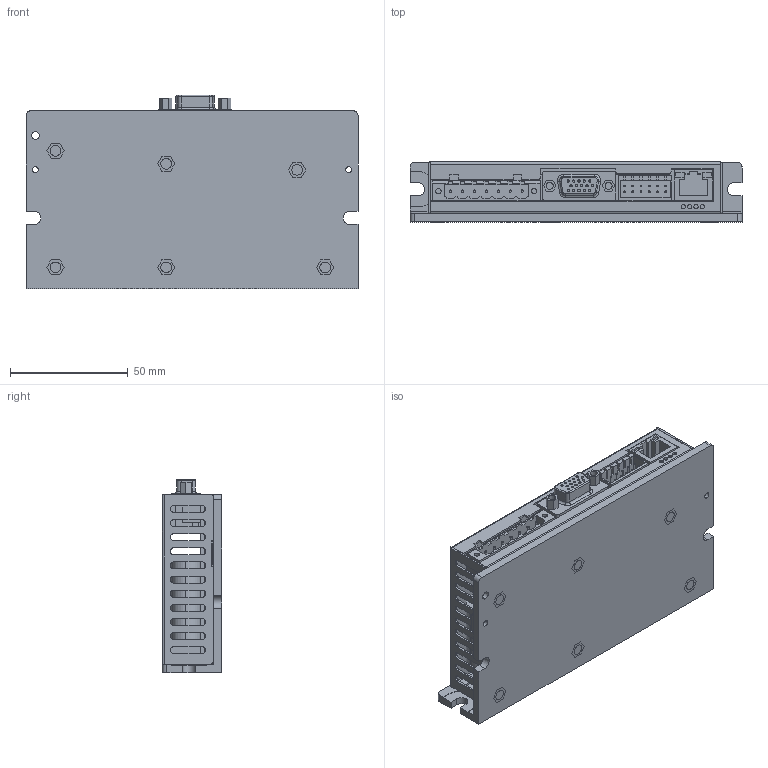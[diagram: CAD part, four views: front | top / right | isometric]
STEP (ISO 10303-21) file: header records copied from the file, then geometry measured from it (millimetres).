
FILE_DESCRIPTION((''),'2;1');
FILE_NAME('FD124S_ASM','2022-02-24T10:17:15',('RD0060'),(''),'CREO PARAMETRIC BY PTC INC, 2016510','CREO PARAMETRIC BY PTC INC, 2016510','');
FILE_SCHEMA(('CONFIG_CONTROL_DESIGN'));
Length unit declared in the file: millimetre
Products named in the file (14): PCB; CED-6; DINKLE-2ESDVM-07P_ASM; WEBKOU_15; DINKLE-0156-2512L; DINKLE-0156-2512L_ASM; 9ZHEN-DAOLISHI_2; PCB-ASM_ASM; HT-WU; BSO-M3X7; HT-WU_ASM; THERMAL; FD124EA-HS; FD124S_ASM
Assembly tree (18 placements, depth 4):
  FD124S_ASM
    PCB-ASM_ASM
      PCB
      DINKLE-2ESDVM-07P_ASM
        CED-6
      WEBKOU_15
      DINKLE-0156-2512L_ASM
        DINKLE-0156-2512L
      9ZHEN-DAOLISHI_2
    HT-WU_ASM
      HT-WU
      BSO-M3X7  x6
    THERMAL
    FD124EA-HS
Bounding box: 141 x 25.4 x 82.03 mm (x, y, z)
Volume: 100977.7 mm3; surface area: 96244.8 mm2
Topology: 15 solids, 15 shells, 807 faces, 1988 edges, 1302 vertices
Faces by surface type: plane 516, cylinder 283, torus 8
Entity records: 22504 total; most frequent: DIRECTION 3940, CARTESIAN_POINT 3838, ORIENTED_EDGE 3676, EDGE_CURVE 1838, AXIS2_PLACEMENT_3D 1321, VECTOR 1298, LINE 1298, VERTEX_POINT 1202
